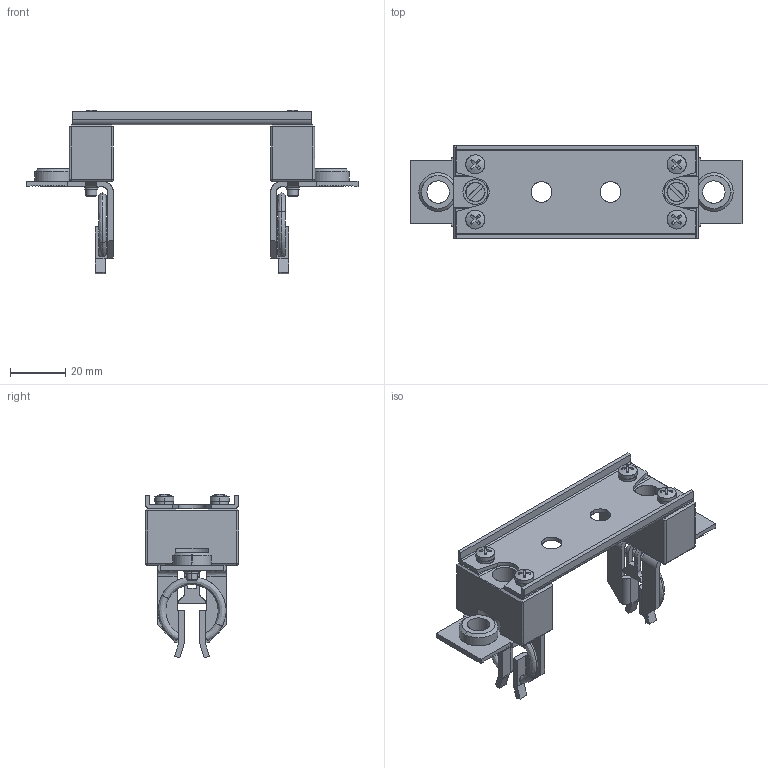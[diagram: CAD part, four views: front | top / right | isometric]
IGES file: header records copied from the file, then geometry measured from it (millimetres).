
Start section: SolidWorks IGES file using analytic representation for surfaces
Global section: file name: U:\14_RD\05_Technical_office\04_Office\Hrdinova\3D modely - IGES\Varius - Ostatní\SPF00.IGS; native system: SolidWorks 2011; preprocessor: SolidWorks 2011; author: adhrja3; date: 170620.143029; units: millimetre
Bounding box: 120.4 x 34 x 59.27 mm (x, y, z)
Surface area: 25475.5 mm2 (no closed solid volume)
Topology: 0 solids, 0 shells, 921 faces, 8698 edges, 8578 vertices
Faces by surface type: bspline 526, revolution 395
